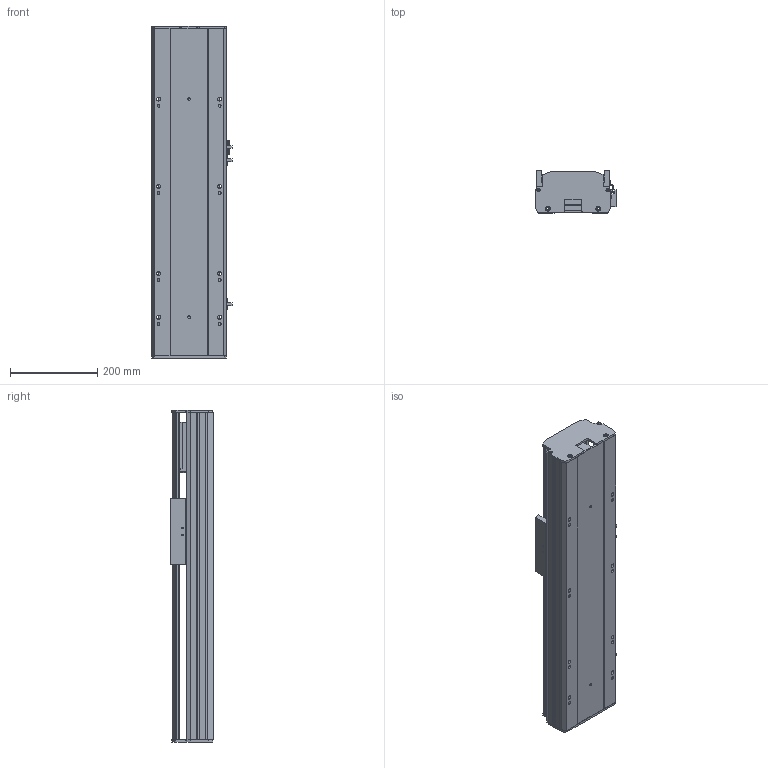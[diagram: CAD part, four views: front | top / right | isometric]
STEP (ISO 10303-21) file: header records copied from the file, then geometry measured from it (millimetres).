
FILE_DESCRIPTION (( 'STEP AP203' ), '1' );
FILE_NAME ('Y170-D10-S350-M-P400W.STEP', '2020-01-22T12:37:29', ( '微软用户' ), ( '微软中国' ), 'SwSTEP 2.0', 'SolidWorks 2017', '' );
FILE_SCHEMA (( 'CONFIG_CONTROL_DESIGN' ));
Length unit declared in the file: millimetre
Products named in the file (10): Y170耜裔--準---M; san松下电机400不带刹车----; Y170-陔遴奻裔-M; YD-Y100-135-新外置传感挡片(通用）; Y170-D10-S350-M-P400W; Y100-135俋离換覜ん; 135-盓傅釱-FK15; Y170耜裔--準---; Y170--雄赽釱-梓--; 170--掛极-M
Assembly tree (11 placements, depth 2):
  Y170-D10-S350-M-P400W
    YD-Y100-135-新外置传感挡片(通用）
    Y100-135俋离換覜ん  x3
    135-盓傅釱-FK15
    Y170耜裔--準---
    Y170--雄赽釱-梓--
    170--掛极-M
    Y170耜裔--準---M
    san松下电机400不带刹车----
    Y170-陔遴奻裔-M
Bounding box: 183.5 x 97 x 761 mm (x, y, z)
Volume: 3622696.3 mm3; surface area: 1237486.6 mm2
Topology: 11 solids, 11 shells, 761 faces, 2132 edges, 1412 vertices
Faces by surface type: plane 384, cylinder 375, torus 2
Entity records: 24300 total; most frequent: CARTESIAN_POINT 4225, DIRECTION 4062, ORIENTED_EDGE 3928, EDGE_CURVE 1964, AXIS2_PLACEMENT_3D 1433, VERTEX_POINT 1300, LINE 1196, VECTOR 1196
